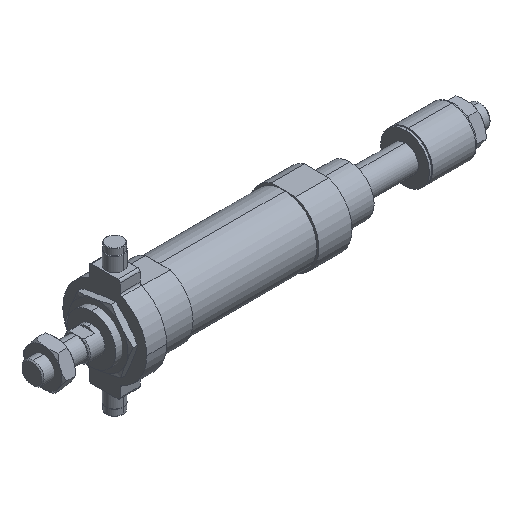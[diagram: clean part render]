
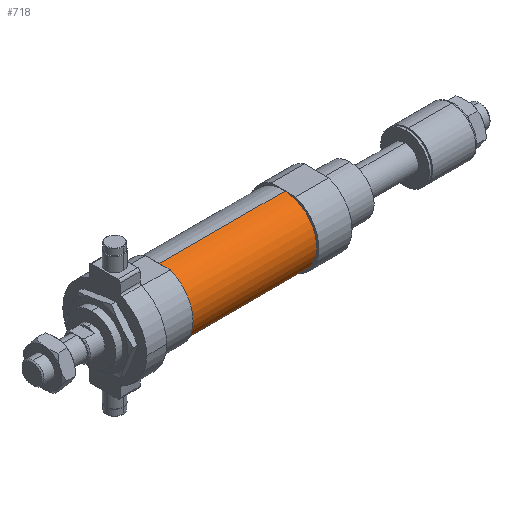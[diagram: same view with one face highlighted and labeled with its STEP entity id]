
A CAD part, isometric view. The second image highlights one B-rep face of the part: STEP entity #718.
In plain terms, the highlighted cylindrical face has radius 15 mm (diameter 30 mm), a partial arc.
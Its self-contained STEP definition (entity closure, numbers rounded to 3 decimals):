
#57 = AXIS2_PLACEMENT_3D ( 'NONE', #5604, #5694, #4469 ) ;
#156 = AXIS2_PLACEMENT_3D ( 'NONE', #5237, #4966, #5526 ) ;
#274 = CARTESIAN_POINT ( 'NONE',  ( 28.5, 0., -15. ) ) ;
#488 = VERTEX_POINT ( 'NONE', #4810 ) ;
#718 = ADVANCED_FACE ( 'NONE', ( #828 ), #1966, .T. ) ;
#828 = FACE_OUTER_BOUND ( 'NONE', #1413, .T. ) ;
#921 = VECTOR ( 'NONE', #3913, 1000. ) ;
#952 = VERTEX_POINT ( 'NONE', #3024 ) ;
#995 = LINE ( 'NONE', #4952, #921 ) ;
#1044 = VERTEX_POINT ( 'NONE', #2103 ) ;
#1103 = DIRECTION ( 'NONE',  ( 1., 0., 0. ) ) ;
#1413 = EDGE_LOOP ( 'NONE', ( #5367, #5254, #5279, #5465 ) ) ;
#1648 = AXIS2_PLACEMENT_3D ( 'NONE', #4947, #1103, #5324 ) ;
#1742 = EDGE_CURVE ( 'NONE', #488, #4360, #995, .T. ) ;
#1966 = CYLINDRICAL_SURFACE ( 'NONE', #156, 15. ) ;
#2103 = CARTESIAN_POINT ( 'NONE',  ( -28.5, 0., -15. ) ) ;
#2369 = EDGE_CURVE ( 'NONE', #952, #1044, #3481, .T. ) ;
#3024 = CARTESIAN_POINT ( 'NONE',  ( 28.5, 0., -15. ) ) ;
#3071 = CARTESIAN_POINT ( 'NONE',  ( -28.5, 0., 15. ) ) ;
#3083 = EDGE_CURVE ( 'NONE', #4360, #1044, #5445, .T. ) ;
#3481 = LINE ( 'NONE', #274, #4840 ) ;
#3579 = DIRECTION ( 'NONE',  ( -1., 0., 0. ) ) ;
#3913 = DIRECTION ( 'NONE',  ( -1., 0., 0. ) ) ;
#4360 = VERTEX_POINT ( 'NONE', #3071 ) ;
#4427 = EDGE_CURVE ( 'NONE', #488, #952, #4564, .T. ) ;
#4469 = DIRECTION ( 'NONE',  ( 0., 0., -1. ) ) ;
#4564 = CIRCLE ( 'NONE', #1648, 15. ) ;
#4810 = CARTESIAN_POINT ( 'NONE',  ( 28.5, 0., 15. ) ) ;
#4840 = VECTOR ( 'NONE', #3579, 1000. ) ;
#4947 = CARTESIAN_POINT ( 'NONE',  ( 28.5, 0., 0. ) ) ;
#4952 = CARTESIAN_POINT ( 'NONE',  ( 28.5, 0., 15. ) ) ;
#4966 = DIRECTION ( 'NONE',  ( -1., 0., 0. ) ) ;
#5237 = CARTESIAN_POINT ( 'NONE',  ( 28.5, 0., 0. ) ) ;
#5254 = ORIENTED_EDGE ( 'NONE', *, *, #4427, .F. ) ;
#5279 = ORIENTED_EDGE ( 'NONE', *, *, #1742, .T. ) ;
#5324 = DIRECTION ( 'NONE',  ( 0., 0., -1. ) ) ;
#5367 = ORIENTED_EDGE ( 'NONE', *, *, #2369, .F. ) ;
#5445 = CIRCLE ( 'NONE', #57, 15. ) ;
#5465 = ORIENTED_EDGE ( 'NONE', *, *, #3083, .T. ) ;
#5526 = DIRECTION ( 'NONE',  ( 0., 0., 1. ) ) ;
#5604 = CARTESIAN_POINT ( 'NONE',  ( -28.5, 0., 0. ) ) ;
#5694 = DIRECTION ( 'NONE',  ( 1., 0., 0. ) ) ;
